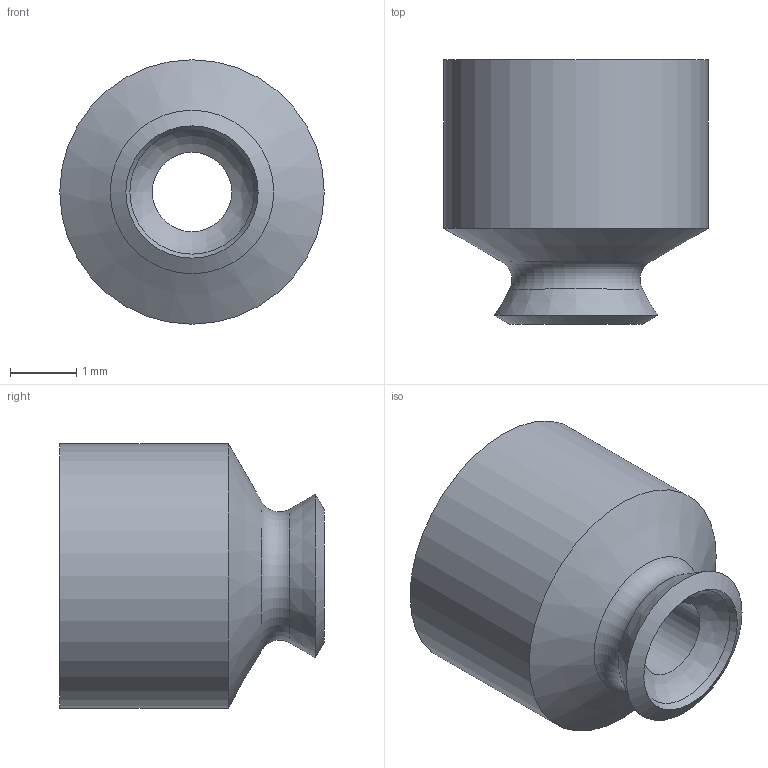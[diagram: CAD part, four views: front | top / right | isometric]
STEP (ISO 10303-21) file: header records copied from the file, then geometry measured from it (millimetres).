
FILE_DESCRIPTION(('STEP AP203'),'1');
FILE_NAME('_3D.stp','2024-06-11T23:24:03',(' '),(' '),'Spatial InterOp 3D',' ',' ');
FILE_SCHEMA(('CONFIG_CONTROL_DESIGN'));
Length unit declared in the file: millimetre
Products named in the file (1): 1
Bounding box: 4 x 4 x 4 mm (x, y, z)
Volume: 25.5 mm3; surface area: 92.6 mm2
Topology: 1 solids, 1 shells, 18 faces, 41 edges, 26 vertices
Faces by surface type: torus 6, cylinder 4, cone 4, plane 3, bspline 1
Full cylindrical faces by diameter (mm): 1.2 x1, 2 x1, 3 x1, 4 x1
Entity records: 435 total; most frequent: CARTESIAN_POINT 82, DIRECTION 72, AXIS2_PLACEMENT_3D 36, EDGE_LOOP 36, ORIENTED_EDGE 36, FACE_OUTER_BOUND 29, ADVANCED_FACE 18, EDGE_CURVE 18
